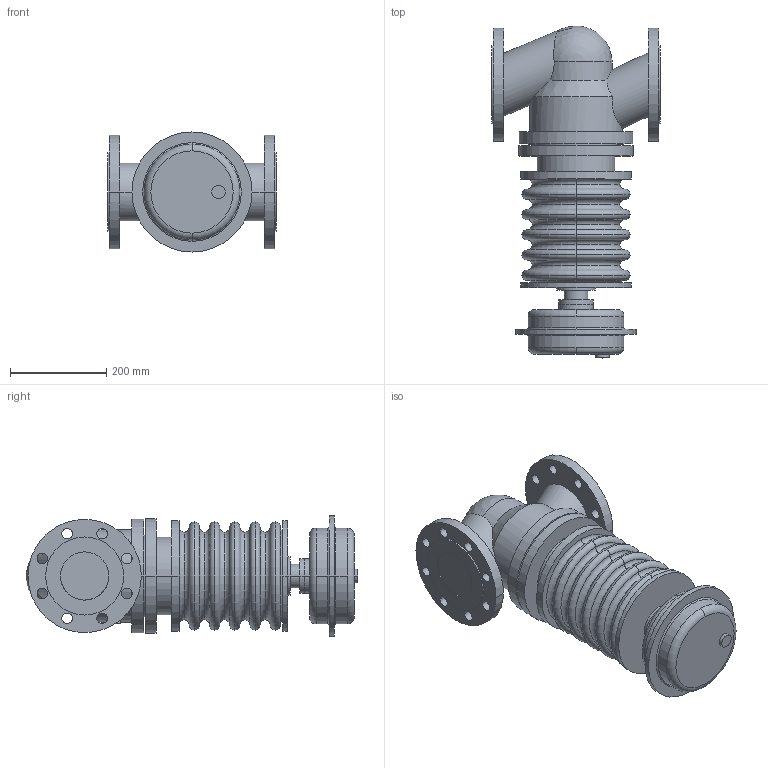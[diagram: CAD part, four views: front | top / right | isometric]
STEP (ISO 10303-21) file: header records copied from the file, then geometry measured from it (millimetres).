
FILE_DESCRIPTION( ( '' ), '1' );
FILE_NAME( 'F:/DE-SHS/TB/OR/04-Sonstiges/daten/files_3d/PREDU/PREDU-PN25-DMA250/c000005370.stp', '2014-06-03T11:16:21', ( '' ), ( '' ), ' ', ' ', ' ' );
FILE_SCHEMA( ( 'CONFIG_CONTROL_DESIGN' ) );
Length unit declared in the file: millimetre
Products named in the file (2): 1; 2
Bounding box: 350 x 688.65 x 249 mm (x, y, z)
Volume: 22133717.5 mm3; surface area: 971001.3 mm2
Topology: 2 solids, 2 shells, 173 faces, 418 edges, 270 vertices
Faces by surface type: cylinder 80, torus 50, plane 40, cone 2, sphere 1
Entity records: 5844 total; most frequent: CARTESIAN_POINT 1398, DIRECTION 1041, ORIENTED_EDGE 832, AXIS2_PLACEMENT_3D 464, EDGE_CURVE 416, CIRCLE 283, VERTEX_POINT 270, EDGE_LOOP 228
